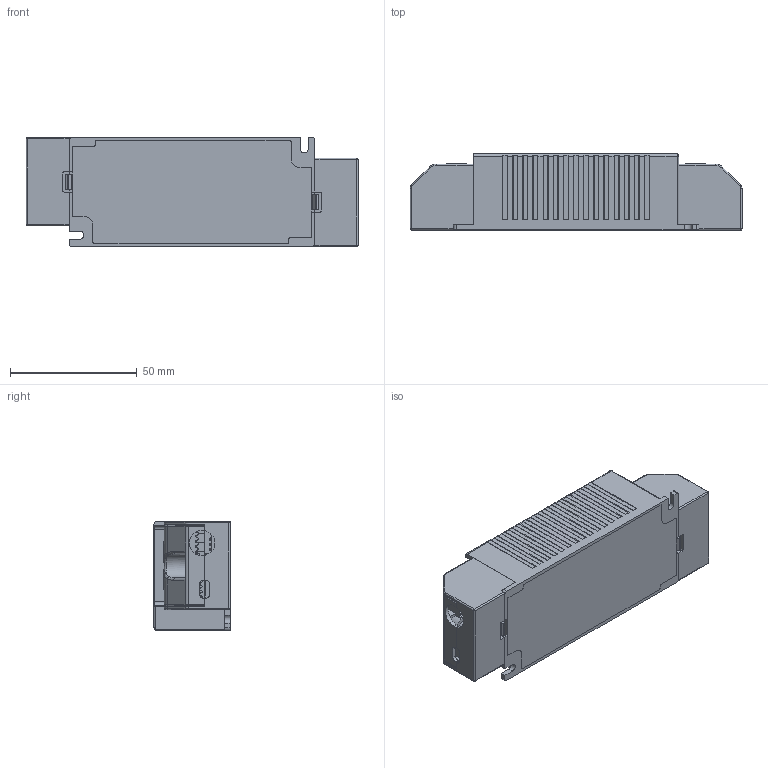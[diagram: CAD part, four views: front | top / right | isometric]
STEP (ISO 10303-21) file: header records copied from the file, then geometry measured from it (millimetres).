
FILE_DESCRIPTION(('FreeCAD Model'),'2;1');
FILE_NAME('H:/EB product maintenance/Project/3D mechanics/Eagle/LC28MINI-CC-500-700.stp','2020-07-08T12:12:16',('Author' ),(''),'Open CASCADE STEP processor 7.3','FreeCAD','Unknown');
FILE_SCHEMA(('AUTOMOTIVE_DESIGN { 1 0 10303 214 1 1 1 1 }'));
Length unit declared in the file: millimetre
Products named in the file (11): LC28MINI-CC-500-700; Cover; 40W-PCB; DA250_P1-21489_1_A_004; DA250_P4-19812_1_A_002; BOTTOM-1120; SR-BOT-02; SR-BOT-003; DA250_P2-14081_1_A_002; DIP; DA250-350-3P_ASM_1_ASM_A_ASM_2_ASM
Assembly tree (17 placements, depth 3):
  LC28MINI-CC-500-700
    Cover
    40W-PCB
    DA250_P1-21489_1_A_004  x3
    DA250_P4-19812_1_A_002  x2
    BOTTOM-1120
    SR-BOT-02  x2
    SR-BOT-003  x2
    DA250_P2-14081_1_A_002
    DIP
    DA250-350-3P_ASM_1_ASM_A_ASM_2_ASM
      DA250_P2-14081_1_A_002
      DA250_P1-21489_1_A_004
Bounding box: 131 x 30 x 43 mm (x, y, z)
Volume: 41032.9 mm3; surface area: 67697.5 mm2
Topology: 16 solids, 16 shells, 1833 faces, 5243 edges, 3540 vertices
Faces by surface type: plane 1143, cylinder 544, extrusion 58, torus 36, sphere 30, bspline 12, cone 10
Entity records: 90914 total; most frequent: CARTESIAN_POINT 27238, DIRECTION 11641, VECTOR 7620, LINE 7566, ORIENTED_EDGE 6416, PCURVE 6416, DEFINITIONAL_REPRESENTATION 6416, EDGE_CURVE 3208
